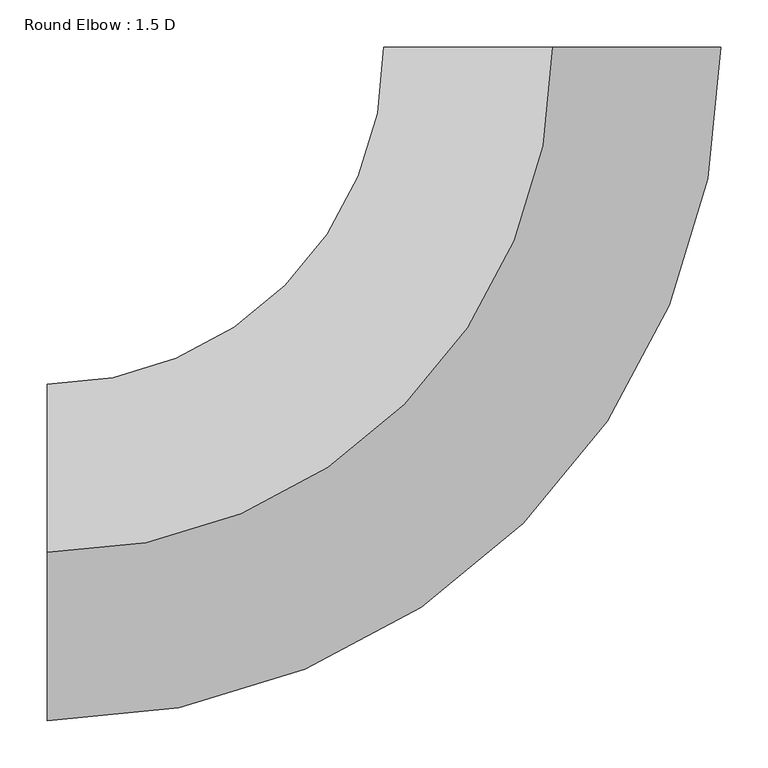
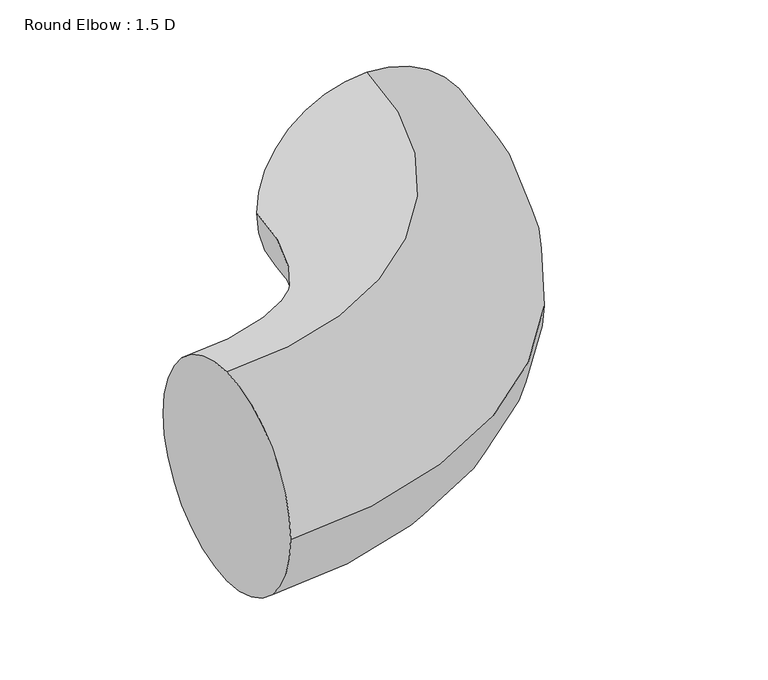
"""IFC4 building model written with IfcOpenShell, lengths in millimetres: duct fitting geometry, Round Elbow : 1.5 D."""

from ifc_helpers import new_model, si_unit, point, frame, origin, place, context, project, spatial, circle_curve, ellipse_curve, trimmed, source, transform, mapped, element, save
from ifc_brep_helpers import plane_surface, revolved_surface, advanced_brep


def round_elbow_1_5_d_893a4759(model_context):
    return source(origin(), model_context, "Body", "AdvancedBrep", [
        advanced_brep(
        [(-533.4, 0.0, 177.8), (-533.4, 177.8, 0.0), (-533.4, 0.0, -177.8), (-533.4, -177.8, 0.0), (0.0, 533.4, 177.8), (177.8, 533.4, 0.0), (0.0, 533.4, -177.8), (-177.8, 533.4, 0.0)],
        [
            (0, 1, circle_curve(frame((-533.4, 0.0, 0.0), z_axis=(-1.0, 0.0, 0.0), x_axis=(0.0, 1.0, 0.0)), 177.8)),
            (1, 2, circle_curve(frame((-533.4, 0.0, 0.0), z_axis=(-1.0, 0.0, 0.0), x_axis=(0.0, 1.0, 0.0)), 177.8)),
            (2, 3, circle_curve(frame((-533.4, 0.0, 0.0), z_axis=(-1.0, 0.0, 0.0), x_axis=(0.0, 1.0, 0.0)), 177.8)),
            (3, 0, circle_curve(frame((-533.4, 0.0, 0.0), z_axis=(-1.0, 0.0, 0.0), x_axis=(0.0, 1.0, 0.0)), 177.8)),
            (4, 5, circle_curve(frame((0.0, 533.4, 0.0), z_axis=(0.0, 1.0, 0.0), x_axis=(-1.0, 0.0, 0.0)), 177.8)),
            (5, 6, circle_curve(frame((0.0, 533.4, 0.0), z_axis=(0.0, 1.0, 0.0), x_axis=(-1.0, 0.0, 0.0)), 177.8)),
            (6, 7, circle_curve(frame((0.0, 533.4, 0.0), z_axis=(0.0, 1.0, 0.0), x_axis=(-1.0, 0.0, 0.0)), 177.8)),
            (7, 4, circle_curve(frame((0.0, 533.4, 0.0), z_axis=(0.0, 1.0, 0.0), x_axis=(-1.0, 0.0, 0.0)), 177.8)),
            (7, 1, circle_curve(frame((-533.4, 533.4, 0.0), z_axis=(0.0, 0.0, -1.0), x_axis=(0.0, -1.0, 0.0)), 355.6)),
            (0, 4, circle_curve(frame((-533.4, 533.4, 177.8), z_axis=(0.0, 0.0, 1.0), x_axis=(0.0, -1.0, 0.0)), 533.4)),
            (6, 2, circle_curve(frame((-533.4, 533.4, -177.8), z_axis=(0.0, 0.0, -1.0), x_axis=(0.0, -1.0, 0.0)), 533.4)),
            (5, 3, circle_curve(frame((-533.4, 533.4, 0.0), z_axis=(0.0, 0.0, -1.0), x_axis=(0.0, -1.0, 0.0)), 711.2)),
        ],
        [
            plane_surface(frame((-533.4, 0.0, 0.0), z_axis=(-1.0, 0.0, 0.0), x_axis=(0.0, 0.0, 1.0))),
            plane_surface(frame((0.0, 533.4, 0.0), z_axis=(0.0, 1.0, 0.0), x_axis=(0.0, 0.0, 1.0))),
            revolved_surface(trimmed(ellipse_curve(frame((-533.4, 0.0, 0.0), z_axis=(-1.0, 0.0, 0.0), x_axis=(0.0, 1.0, 0.0)), 177.8, 177.8), [point((-533.4, 0.0, 177.8))], [point((-533.4, 177.8, 0.0))], True, "CARTESIAN"), (-533.4, 533.4, 0.0), (0.0, 0.0, 1.0)),
            revolved_surface(trimmed(ellipse_curve(frame((-533.4, 0.0, 0.0), z_axis=(-1.0, 0.0, 0.0), x_axis=(0.0, 1.0, 0.0)), 177.8, 177.8), [point((-533.4, 177.8, 0.0))], [point((-533.4, 0.0, -177.8))], True, "CARTESIAN"), (-533.4, 533.4, 0.0), (0.0, 0.0, 1.0)),
            revolved_surface(trimmed(ellipse_curve(frame((-533.4, 0.0, 0.0), z_axis=(-1.0, 0.0, 0.0), x_axis=(0.0, 1.0, 0.0)), 177.8, 177.8), [point((-533.4, 0.0, -177.8))], [point((-533.4, -177.8, 0.0))], True, "CARTESIAN"), (-533.4, 533.4, 0.0), (0.0, 0.0, 1.0)),
            revolved_surface(trimmed(ellipse_curve(frame((-533.4, 0.0, 0.0), z_axis=(-1.0, 0.0, 0.0), x_axis=(0.0, 1.0, 0.0)), 177.8, 177.8), [point((-533.4, -177.8, 0.0))], [point((-533.4, 0.0, 177.8))], True, "CARTESIAN"), (-533.4, 533.4, 0.0), (0.0, 0.0, 1.0)),
        ],
        [
            (0, [[1, 2, 3, 4]]),
            (1, [[5, 6, 7, 8]]),
            (2, [[9, -1, 10, -8]]),
            (3, [[11, -2, -9, -7]]),
            (4, [[12, -3, -11, -6]]),
            (5, [[-10, -4, -12, -5]]),
        ],
    ),
    ])


if __name__ == "__main__":
    model = new_model("IFC4")
    model_context = context("Model", 3, world=origin())
    ifc_project = project(units=[si_unit("LENGTHUNIT", "METRE", prefix="MILLI")], contexts=[model_context])
    site = spatial("IfcSite", under=ifc_project)
    building = spatial("IfcBuilding", under=site)
    placement = place(None, origin())
    round_elbow_1_5_d_shape = round_elbow_1_5_d_893a4759(model_context)
    element("IfcDuctFitting", 1, ObjectType="Round Elbow : 1.5 D", at=placement, inside=building, context=model_context, shape_type="MappedRepresentation", body=[
        mapped(round_elbow_1_5_d_shape, transform((0.0, 0.0, 0.0), x_axis=(1.0, 0.0, 0.0), y_axis=(0.0, 1.0, 0.0), z_axis=(0.0, 0.0, 1.0))),
    ])
    save(model, "model.ifc")
